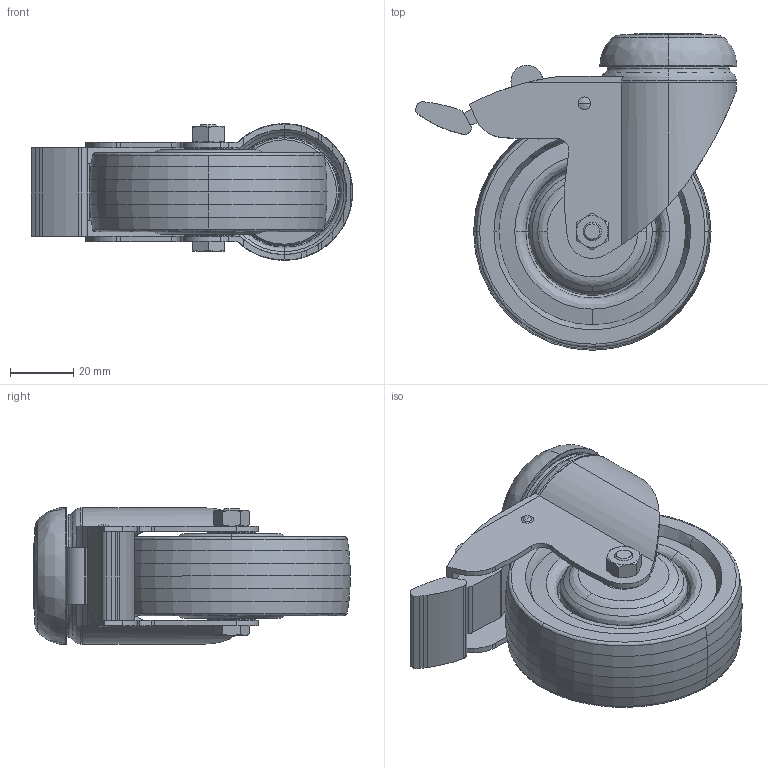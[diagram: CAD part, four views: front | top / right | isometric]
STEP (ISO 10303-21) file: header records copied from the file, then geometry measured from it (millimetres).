
FILE_DESCRIPTION (( 'STEP AP203' ), '1' );
FILE_NAME ('502051_Lenkrolle Ø75; mit Rückenloch Ø13 kpl. feststellbar leitfähig.step', '2022-07-29T06:27:22', ( '' ), ( '' ), 'SwSTEP 2.0', 'SolidWorks 2021', '' );
FILE_SCHEMA (( 'CONFIG_CONTROL_DESIGN' ));
Length unit declared in the file: millimetre
Products named in the file (1): 502051_Lenkrolle Ø75; mit Rückenloch Ø13 kpl. feststellbar leitfähig
Bounding box: 101.6 x 100 x 43.31 mm (x, y, z)
Volume: 121359.6 mm3; surface area: 52628.7 mm2
Topology: 2 solids, 2 shells, 380 faces, 965 edges, 615 vertices
Faces by surface type: cylinder 134, bspline 95, plane 88, cone 63
Entity records: 14526 total; most frequent: CARTESIAN_POINT 5437, DIRECTION 1946, ORIENTED_EDGE 1922, EDGE_CURVE 961, AXIS2_PLACEMENT_3D 824, VERTEX_POINT 615, CIRCLE 538, EDGE_LOOP 420
